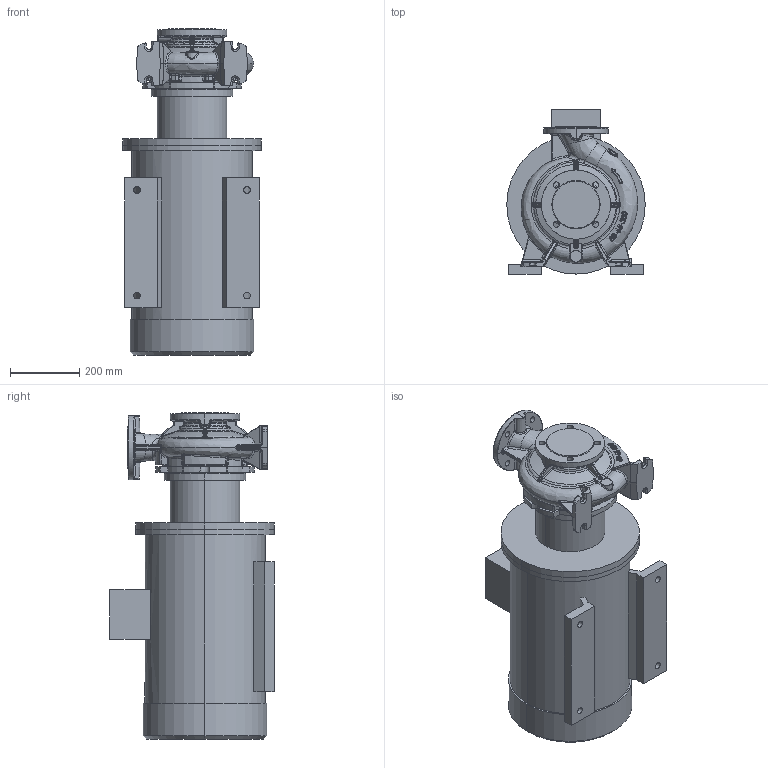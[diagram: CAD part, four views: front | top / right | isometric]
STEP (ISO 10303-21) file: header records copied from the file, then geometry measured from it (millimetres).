
FILE_DESCRIPTION (( 'STEP AP203' ), '1' );
FILE_NAME ('KRM 80-65-200-2-30.STEP', '2026-05-07T08:06:05', ( '' ), ( '' ), 'SwSTEP 2.0', 'SolidWorks 2016', '' );
FILE_SCHEMA (( 'CONFIG_CONTROL_DESIGN' ));
Length unit declared in the file: millimetre
Products named in the file (1): KRM 80-65-200-2-30
Bounding box: 400 x 475 x 942.3 mm (x, y, z)
Volume: 80980899.8 mm3; surface area: 2262365.9 mm2
Topology: 14 solids, 14 shells, 1176 faces, 2804 edges, 1664 vertices
Faces by surface type: bspline 552, cylinder 228, plane 216, torus 89, cone 76, sphere 15
Entity records: 72076 total; most frequent: CARTESIAN_POINT 49072, ORIENTED_EDGE 5572, DIRECTION 3717, EDGE_CURVE 2786, VERTEX_POINT 1664, AXIS2_PLACEMENT_3D 1535, EDGE_LOOP 1238, FACE_OUTER_BOUND 1176
